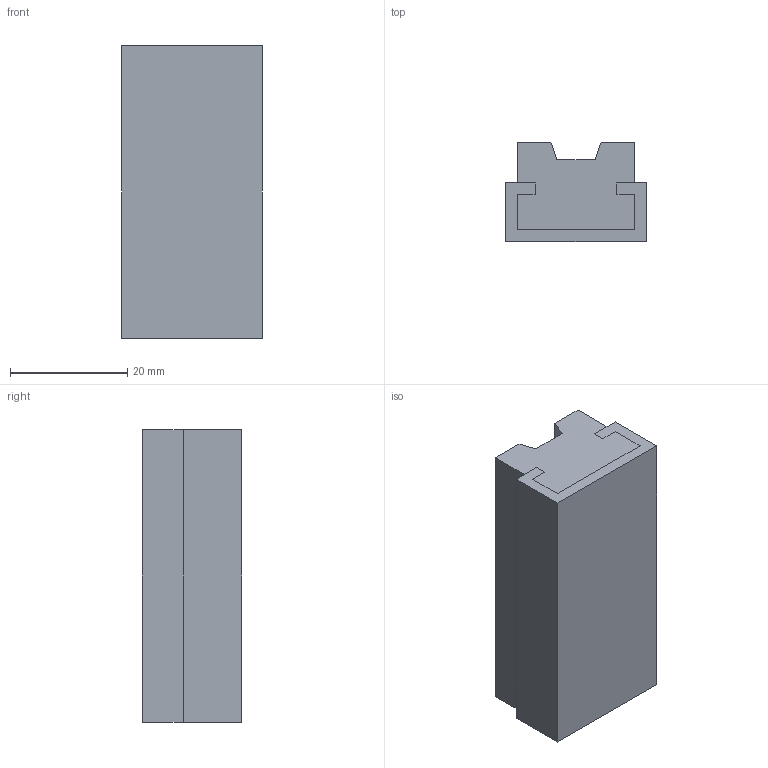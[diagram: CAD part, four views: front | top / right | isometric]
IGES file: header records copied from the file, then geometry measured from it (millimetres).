
Start section: SolidWorks IGES file using analytic representation for surfaces
Global section: file name: C:\Documents and Settings\ARGE\Desktop\yeni katalog tolgay düzenli\E kataloðu\ALPOLEN 1000 ÇELÝK PROFÝLLÝ V KAYIÞ KLAVUZLARI\207 VP0 004.IGS; native system: SolidWorks 2006 by SolidWorks Corporation; preprocessor: SolidWorks 2006 by SolidWorks Corporation; author: ARGE2; date: 060912.173547; units: millimetre
Bounding box: 24 x 17 x 50 mm (x, y, z)
Surface area: 9828.8 mm2 (no closed solid volume)
Topology: 0 solids, 0 shells, 32 faces, 168 edges, 168 vertices
Faces by surface type: bspline 32
